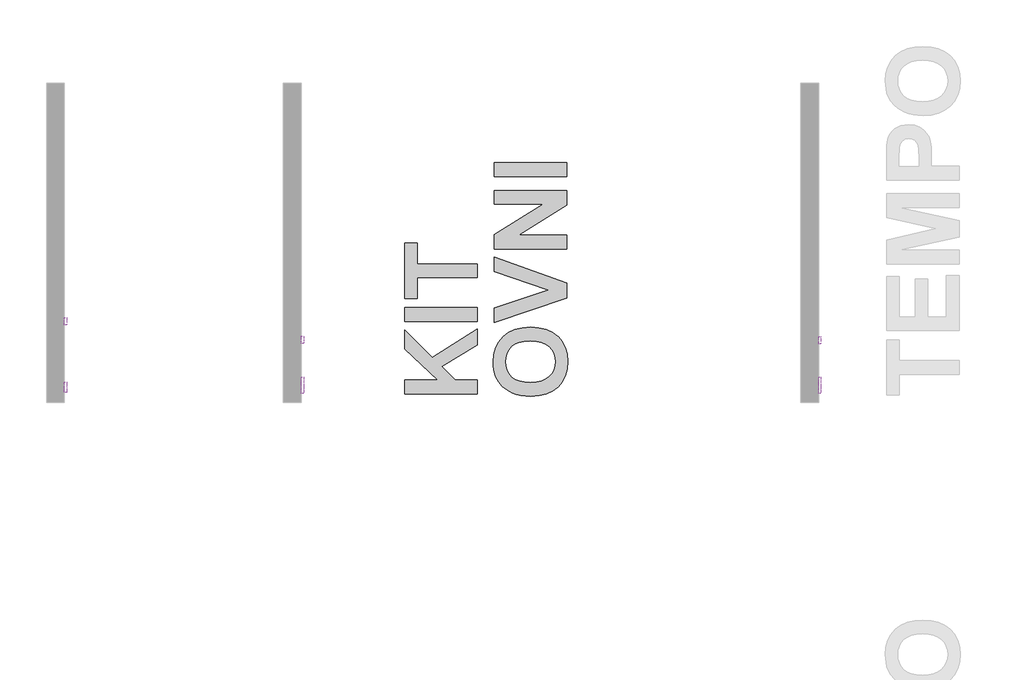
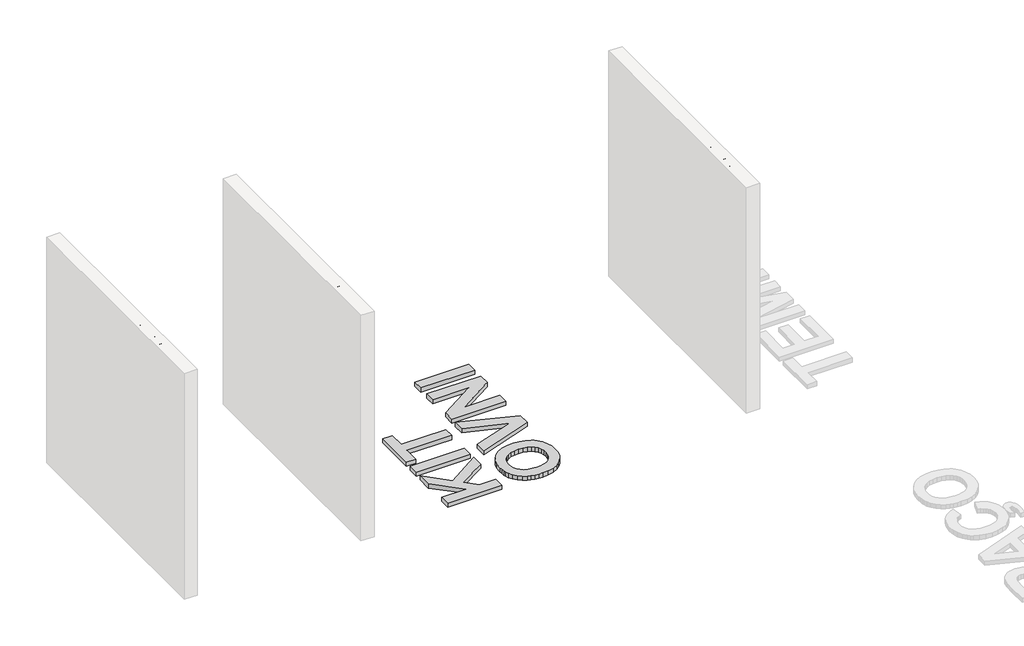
# One storey, part 6 of 9: 7 proxies.
"""IFC4 building model written with IfcOpenShell, lengths in millimetres."""

from ifc_helpers import new_model, si_unit, frame, origin, origin_with_axes, place, context, project, spatial, polyline, outline, extrude, element, save

model = new_model("IFC4")

# Units and contexts
model_context = context("Model", 3, world=origin())
ifc_project = project(units=[si_unit("LENGTHUNIT", "METRE", prefix="MILLI")], contexts=[model_context])

# Site, building, storey
site = spatial("IfcSite", under=ifc_project)
building = spatial("IfcBuilding", under=site)
storey = spatial("IfcBuildingStorey", under=building, Name="PORTOBELLO - SHOWROOM", Elevation=0.0)

# Proxies
placement = place(None, origin())
element("IfcBuildingElementProxy", 1, Name="10mm Arial", ObjectType="10mm Arial", at=placement, inside=storey, context=model_context, shape_type="SweptSolid", body=[
    extrude(outline(polyline([(951.4109297, 2548.4925024), (924.0159838, 2648.9488126), (936.9654301, 2648.9488126), (952.8579323, 2582.9262572), (957.7630255, 2562.5455946), (963.0114753, 2580.5718124), (982.926154, 2648.9488126), (1001.5900339, 2648.9488126), (1016.060059, 2599.3828451), (1026.8267388, 2562.5455946), (1031.5846792, 2582.337646), (1047.6243342, 2648.9488126), (1060.5737804, 2648.9488126), (1033.1543091, 2548.4925024), (1019.738879, 2548.4925024), (995.654871, 2625.9929761), (992.2948821, 2636.8087067), (988.5179603, 2623.7856841), (966.5676679, 2548.4925024), (951.4109297, 2548.4925024)])), frame((127826.5708693, 0.0, 0.0), z_axis=(1.0, 0.0, 0.0), x_axis=(0.0, 1.0, 0.0)), (0.0, 0.0, 1.0), 20.0),
    extrude(outline(polyline([(1071.5611894, 2548.4925024), (1071.5611894, 2648.9488126), (1084.1182281, 2648.9488126), (1084.1182281, 2612.0134603), (1093.9100206, 2620.8794163), (1105.9704186, 2623.834735), (1120.0725618, 2620.6096362), (1128.6319495, 2611.6946292), (1131.2071235, 2595.1889903), (1131.2071235, 2548.4925024), (1118.6500847, 2548.4925024), (1118.6500847, 2593.8891406), (1114.6524337, 2607.1328925), (1103.3216683, 2611.2776963), (1093.0332351, 2608.4817931), (1086.1661046, 2600.903424), (1084.1182281, 2587.6841976), (1084.1182281, 2548.4925024), (1071.5611894, 2548.4925024)])), frame((127826.5708693, 0.0, 0.0), z_axis=(1.0, 0.0, 0.0), x_axis=(0.0, 1.0, 0.0)), (0.0, 0.0, 1.0), 20.0),
    extrude(outline(polyline([(127846.5708693, 1161.0300906), (127846.5708693, 1148.4730518), (127826.5708693, 1148.4730518), (127826.5708693, 1161.0300906), (127846.5708693, 1161.0300906)])), frame((0.0, 0.0, 2636.3917738), z_axis=(0.0, 0.0, 1.0), x_axis=(1.0, 0.0, 0.0)), (0.0, 0.0, 1.0), 12.5570388),
    extrude(outline(polyline([(127846.5708693, 1161.0300906), (127846.5708693, 1148.4730518), (127826.5708693, 1148.4730518), (127826.5708693, 1161.0300906), (127846.5708693, 1161.0300906)])), frame((0.0, 0.0, 2548.4925024), z_axis=(0.0, 0.0, 1.0), x_axis=(1.0, 0.0, 0.0)), (0.0, 0.0, 1.0), 73.7726028),
    extrude(outline(polyline([(1206.5493561, 2558.9648766), (1208.118986, 2548.1246204), (1198.7257324, 2546.9228726), (1188.2043073, 2549.0075372), (1182.9558575, 2554.4767162), (1181.4352786, 2568.7260122), (1181.4352786, 2609.7080664), (1172.0174995, 2609.7080664), (1172.0174995, 2622.2651052), (1181.4352786, 2622.2651052), (1181.4352786, 2640.1932211), (1193.9923174, 2647.5753865), (1193.9923174, 2622.2651052), (1206.5493561, 2622.2651052), (1206.5493561, 2609.7080664), (1193.9923174, 2609.7080664), (1193.9923174, 2569.0938942), (1194.654505, 2562.619171), (1196.8004833, 2560.3260399), (1201.0801771, 2559.4799113), (1206.5493561, 2558.9648766)])), frame((127826.5708693, 0.0, 0.0), z_axis=(1.0, 0.0, 0.0), x_axis=(0.0, 1.0, 0.0)), (0.0, 0.0, 1.0), 20.0),
    extrude(outline(polyline([(1270.757027, 2570.4673203), (1283.0688111, 2568.8976904), (1278.6327674, 2559.6209328), (1271.5541047, 2552.6863572), (1261.9922385, 2548.3637437), (1250.1065844, 2546.9228726), (1235.3729105, 2549.4091417), (1224.0360136, 2556.8679492), (1216.8071324, 2568.814917), (1214.3975054, 2584.7656671), (1216.8316579, 2601.2529119), (1224.1341155, 2613.5830901), (1235.3177282, 2621.2718238), (1249.3953458, 2623.834735), (1263.0345708, 2621.2779552), (1273.9330749, 2613.6076156), (1281.0791827, 2601.3019628), (1283.4612186, 2584.8392435), (1283.3876422, 2581.4547292), (1226.9545441, 2581.4547292), (1229.1281136, 2572.0553442), (1234.177294, 2565.1452941), (1241.4644232, 2560.896257), (1250.351839, 2559.4799113), (1262.6636231, 2562.1041362), (1270.757027, 2570.4673203)]), holes=[polyline([(1226.9545441, 2594.011768), (1270.9041798, 2594.011768), (1265.8764592, 2605.3915843), (1258.5556075, 2609.8061683), (1249.3462949, 2611.2776963), (1233.8829884, 2606.5810695), (1229.017749, 2601.0904307), (1226.9545441, 2594.011768)])]), frame((127826.5708693, 0.0, 0.0), z_axis=(1.0, 0.0, 0.0), x_axis=(0.0, 1.0, 0.0)), (0.0, 0.0, 1.0), 20.0),
])
element("IfcBuildingElementProxy", 2, Name="10mm Arial", ObjectType="10mm Arial", at=placement, inside=storey, context=model_context, shape_type="SweptSolid", body=[
    extrude(outline(polyline([(951.4109297, 2548.4925024), (924.0159838, 2648.9488126), (936.9654301, 2648.9488126), (952.8579323, 2582.9262572), (957.7630255, 2562.5455946), (963.0114753, 2580.5718124), (982.926154, 2648.9488126), (1001.5900339, 2648.9488126), (1016.060059, 2599.3828451), (1026.8267388, 2562.5455946), (1031.5846792, 2582.337646), (1047.6243342, 2648.9488126), (1060.5737804, 2648.9488126), (1033.1543091, 2548.4925024), (1019.738879, 2548.4925024), (995.654871, 2625.9929761), (992.2948821, 2636.8087067), (988.5179603, 2623.7856841), (966.5676679, 2548.4925024), (951.4109297, 2548.4925024)])), frame((123459.5859035, 0.0, 0.0), z_axis=(1.0, 0.0, 0.0), x_axis=(0.0, 1.0, 0.0)), (0.0, 0.0, 1.0), 20.0),
    extrude(outline(polyline([(1071.5611894, 2548.4925024), (1071.5611894, 2648.9488126), (1084.1182281, 2648.9488126), (1084.1182281, 2612.0134603), (1093.9100206, 2620.8794163), (1105.9704186, 2623.834735), (1120.0725618, 2620.6096362), (1128.6319495, 2611.6946292), (1131.2071235, 2595.1889903), (1131.2071235, 2548.4925024), (1118.6500847, 2548.4925024), (1118.6500847, 2593.8891406), (1114.6524337, 2607.1328925), (1103.3216683, 2611.2776963), (1093.0332351, 2608.4817931), (1086.1661046, 2600.903424), (1084.1182281, 2587.6841976), (1084.1182281, 2548.4925024), (1071.5611894, 2548.4925024)])), frame((123459.5859035, 0.0, 0.0), z_axis=(1.0, 0.0, 0.0), x_axis=(0.0, 1.0, 0.0)), (0.0, 0.0, 1.0), 20.0),
    extrude(outline(polyline([(123479.5859035, 1161.0300906), (123479.5859035, 1148.4730518), (123459.5859035, 1148.4730518), (123459.5859035, 1161.0300906), (123479.5859035, 1161.0300906)])), frame((0.0, 0.0, 2636.3917738), z_axis=(0.0, 0.0, 1.0), x_axis=(1.0, 0.0, 0.0)), (0.0, 0.0, 1.0), 12.5570388),
    extrude(outline(polyline([(123479.5859035, 1161.0300906), (123479.5859035, 1148.4730518), (123459.5859035, 1148.4730518), (123459.5859035, 1161.0300906), (123479.5859035, 1161.0300906)])), frame((0.0, 0.0, 2548.4925024), z_axis=(0.0, 0.0, 1.0), x_axis=(1.0, 0.0, 0.0)), (0.0, 0.0, 1.0), 73.7726028),
    extrude(outline(polyline([(1206.5493561, 2558.9648766), (1208.118986, 2548.1246204), (1198.7257324, 2546.9228726), (1188.2043073, 2549.0075372), (1182.9558575, 2554.4767162), (1181.4352786, 2568.7260122), (1181.4352786, 2609.7080664), (1172.0174995, 2609.7080664), (1172.0174995, 2622.2651052), (1181.4352786, 2622.2651052), (1181.4352786, 2640.1932211), (1193.9923174, 2647.5753865), (1193.9923174, 2622.2651052), (1206.5493561, 2622.2651052), (1206.5493561, 2609.7080664), (1193.9923174, 2609.7080664), (1193.9923174, 2569.0938942), (1194.654505, 2562.619171), (1196.8004833, 2560.3260399), (1201.0801771, 2559.4799113), (1206.5493561, 2558.9648766)])), frame((123459.5859035, 0.0, 0.0), z_axis=(1.0, 0.0, 0.0), x_axis=(0.0, 1.0, 0.0)), (0.0, 0.0, 1.0), 20.0),
    extrude(outline(polyline([(1270.757027, 2570.4673203), (1283.0688111, 2568.8976904), (1278.6327674, 2559.6209328), (1271.5541047, 2552.6863572), (1261.9922385, 2548.3637437), (1250.1065844, 2546.9228726), (1235.3729105, 2549.4091417), (1224.0360136, 2556.8679492), (1216.8071324, 2568.814917), (1214.3975054, 2584.7656671), (1216.8316579, 2601.2529119), (1224.1341155, 2613.5830901), (1235.3177282, 2621.2718238), (1249.3953458, 2623.834735), (1263.0345708, 2621.2779552), (1273.9330749, 2613.6076156), (1281.0791827, 2601.3019628), (1283.4612186, 2584.8392435), (1283.3876422, 2581.4547292), (1226.9545441, 2581.4547292), (1229.1281136, 2572.0553442), (1234.177294, 2565.1452941), (1241.4644232, 2560.896257), (1250.351839, 2559.4799113), (1262.6636231, 2562.1041362), (1270.757027, 2570.4673203)]), holes=[polyline([(1226.9545441, 2594.011768), (1270.9041798, 2594.011768), (1265.8764592, 2605.3915843), (1258.5556075, 2609.8061683), (1249.3462949, 2611.2776963), (1233.8829884, 2606.5810695), (1229.017749, 2601.0904307), (1226.9545441, 2594.011768)])]), frame((123459.5859035, 0.0, 0.0), z_axis=(1.0, 0.0, 0.0), x_axis=(0.0, 1.0, 0.0)), (0.0, 0.0, 1.0), 20.0),
])
element("IfcBuildingElementProxy", 3, Name="10mm Arial", ObjectType="10mm Arial", at=placement, inside=storey, context=model_context, shape_type="SweptSolid", body=[
    extrude(outline(polyline([(980.5226583, 2587.7332486), (980.5226583, 2600.2902873), (1021.3330343, 2600.2902873), (1021.3330343, 2562.7417984), (1001.1853637, 2550.8959981), (979.8849962, 2546.9228726), (965.7981814, 2548.5016995), (953.0663987, 2553.2381802), (942.4897914, 2560.9667677), (934.8685027, 2571.5219153), (930.2607807, 2584.1831873), (928.7248734, 2598.2301482), (930.2546493, 2612.3782766), (934.8439772, 2625.5392549), (942.3027847, 2636.5787805), (952.4409993, 2644.3625504), (964.7895716, 2648.9794694), (978.879452, 2650.5184424), (998.5243506, 2646.9499871), (1012.2953999, 2637.0171732), (1019.8860318, 2620.4011697), (1008.3100117, 2617.1392827), (1002.5833153, 2628.752091), (992.7976542, 2635.4475433), (978.6832483, 2637.9614036), (962.6068051, 2635.2513396), (951.6684471, 2628.1389544), (945.2059868, 2618.4636579), (941.2819121, 2598.745183), (946.0030644, 2576.8562043), (959.7373256, 2563.7596052), (978.879452, 2559.4799113), (996.0595412, 2562.7050102), (1008.7759955, 2569.5844035), (1008.7759955, 2587.7332486), (980.5226583, 2587.7332486)])), frame((121459.5859035, 0.0, 0.0), z_axis=(1.0, 0.0, 0.0), x_axis=(0.0, 1.0, 0.0)), (0.0, 0.0, 1.0), 20.0),
    extrude(outline(polyline([(1040.1685924, 2548.4925024), (1040.1685924, 2622.2651052), (1051.1560014, 2622.2651052), (1051.1560014, 2611.3512727), (1058.9550997, 2621.4067139), (1066.8032489, 2623.834735), (1079.4093386, 2619.9597114), (1075.2154839, 2608.7025223), (1066.386316, 2611.2776963), (1059.2861935, 2608.8006242), (1054.7612449, 2601.9334936), (1052.7256312, 2587.2672647), (1052.7256312, 2548.4925024), (1040.1685924, 2548.4925024)])), frame((121459.5859035, 0.0, 0.0), z_axis=(1.0, 0.0, 0.0), x_axis=(0.0, 1.0, 0.0)), (0.0, 0.0, 1.0), 20.0),
    extrude(outline(polyline([(1134.3463832, 2557.9102815), (1122.1694892, 2549.3999447), (1108.7172709, 2546.9228726), (1098.223437, 2548.4127947), (1090.4825867, 2552.8825609), (1085.7093178, 2559.6699837), (1084.1182281, 2568.1128755), (1086.5217238, 2578.0456894), (1092.8370314, 2585.2561765), (1101.6294111, 2589.3764548), (1112.4941927, 2591.2649157), (1134.2728068, 2595.5813978), (1134.3463832, 2598.377301), (1130.8882925, 2607.6479272), (1117.0068785, 2611.2776963), (1104.3026869, 2608.8619378), (1098.2448967, 2600.2902873), (1085.687858, 2601.8599172), (1091.1202488, 2614.1226504), (1102.0586068, 2621.308612), (1118.6255593, 2623.834735), (1133.8436111, 2621.6029176), (1142.4397871, 2615.9988485), (1146.2902853, 2607.476249), (1146.903422, 2596.4888401), (1146.903422, 2580.866118), (1147.5410841, 2559.0507157), (1150.0426817, 2548.4925024), (1137.4856429, 2548.4925024), (1134.3463832, 2557.9102815)]), holes=[polyline([(1134.3463832, 2583.024359), (1114.088348, 2579.1738608), (1103.2848801, 2577.1382471), (1098.3920495, 2573.8273092), (1096.6752669, 2568.9957923), (1100.4154005, 2562.2022381), (1111.3905467, 2559.4799113), (1124.0947383, 2562.484281), (1132.286244, 2569.7560817), (1134.2728068, 2579.4681664), (1134.3463832, 2583.024359)])]), frame((121459.5859035, 0.0, 0.0), z_axis=(1.0, 0.0, 0.0), x_axis=(0.0, 1.0, 0.0)), (0.0, 0.0, 1.0), 20.0),
    extrude(outline(polyline([(1164.1693503, 2520.2391652), (1164.1693503, 2622.2651052), (1176.7263891, 2622.2651052), (1176.7263891, 2609.9533211), (1185.4084041, 2620.3643815), (1197.1315771, 2623.834735), (1213.0486047, 2618.9786927), (1223.4474024, 2605.2934825), (1226.9545441, 2585.9428895), (1222.9936813, 2565.5990152), (1211.4912376, 2551.7421267), (1195.6109981, 2546.9228726), (1184.6849029, 2550.1479714), (1176.7263891, 2558.302689), (1176.7263891, 2520.2391652), (1164.1693503, 2520.2391652)]), holes=[polyline([(1176.7263891, 2584.7901926), (1178.0844868, 2573.5330036), (1182.1587798, 2565.6603289), (1188.1705848, 2561.0250157), (1195.341218, 2559.4799113), (1202.6283472, 2561.080198), (1208.7934363, 2565.8810581), (1212.9964881, 2574.041907), (1214.3975054, 2585.7221603), (1213.0302106, 2596.9180357), (1208.9283264, 2604.901075), (1202.9257185, 2609.683541), (1195.8562528, 2611.2776963), (1188.759196, 2609.5823734), (1182.5266618, 2604.4964048), (1178.1764573, 2596.179206), (1176.7263891, 2584.7901926)])]), frame((121459.5859035, 0.0, 0.0), z_axis=(1.0, 0.0, 0.0), x_axis=(0.0, 1.0, 0.0)), (0.0, 0.0, 1.0), 20.0),
    extrude(outline(polyline([(1241.0812127, 2548.4925024), (1241.0812127, 2648.9488126), (1253.6382515, 2648.9488126), (1253.6382515, 2612.0134603), (1263.4300439, 2620.8794163), (1275.490442, 2623.834735), (1289.5925852, 2620.6096362), (1298.1519729, 2611.6946292), (1300.7271469, 2595.1889903), (1300.7271469, 2548.4925024), (1288.1701081, 2548.4925024), (1288.1701081, 2593.8891406), (1284.1724571, 2607.1328925), (1272.8416917, 2611.2776963), (1262.5532585, 2608.4817931), (1255.686128, 2600.903424), (1253.6382515, 2587.6841976), (1253.6382515, 2548.4925024), (1241.0812127, 2548.4925024)])), frame((121459.5859035, 0.0, 0.0), z_axis=(1.0, 0.0, 0.0), x_axis=(0.0, 1.0, 0.0)), (0.0, 0.0, 1.0), 20.0),
    extrude(outline(polyline([(121479.5859035, 1330.550114), (121479.5859035, 1317.9930752), (121459.5859035, 1317.9930752), (121459.5859035, 1330.550114), (121479.5859035, 1330.550114)])), frame((0.0, 0.0, 2636.3917738), z_axis=(0.0, 0.0, 1.0), x_axis=(1.0, 0.0, 0.0)), (0.0, 0.0, 1.0), 12.5570388),
    extrude(outline(polyline([(121479.5859035, 1330.550114), (121479.5859035, 1317.9930752), (121459.5859035, 1317.9930752), (121459.5859035, 1330.550114), (121479.5859035, 1330.550114)])), frame((0.0, 0.0, 2548.4925024), z_axis=(0.0, 0.0, 1.0), x_axis=(1.0, 0.0, 0.0)), (0.0, 0.0, 1.0), 73.7726028),
    extrude(outline(polyline([(1376.0693795, 2558.9648766), (1377.6390094, 2548.1246204), (1368.2457557, 2546.9228726), (1357.7243307, 2549.0075372), (1352.4758809, 2554.4767162), (1350.955302, 2568.7260122), (1350.955302, 2609.7080664), (1341.5375229, 2609.7080664), (1341.5375229, 2622.2651052), (1350.955302, 2622.2651052), (1350.955302, 2640.1932211), (1363.5123407, 2647.5753865), (1363.5123407, 2622.2651052), (1376.0693795, 2622.2651052), (1376.0693795, 2609.7080664), (1363.5123407, 2609.7080664), (1363.5123407, 2569.0938942), (1364.1745283, 2562.619171), (1366.3205066, 2560.3260399), (1370.6002005, 2559.4799113), (1376.0693795, 2558.9648766)])), frame((121459.5859035, 0.0, 0.0), z_axis=(1.0, 0.0, 0.0), x_axis=(0.0, 1.0, 0.0)), (0.0, 0.0, 1.0), 20.0),
    extrude(outline(polyline([(1440.2770504, 2570.4673203), (1452.5888345, 2568.8976904), (1448.1527908, 2559.6209328), (1441.0741281, 2552.6863572), (1431.5122619, 2548.3637437), (1419.6266077, 2546.9228726), (1404.8929338, 2549.4091417), (1393.556037, 2556.8679492), (1386.3271558, 2568.814917), (1383.9175287, 2584.7656671), (1386.3516813, 2601.2529119), (1393.6541389, 2613.5830901), (1404.8377515, 2621.2718238), (1418.9153692, 2623.834735), (1432.5545942, 2621.2779552), (1443.4530983, 2613.6076156), (1450.599206, 2601.3019628), (1452.981242, 2584.8392435), (1452.9076656, 2581.4547292), (1396.4745675, 2581.4547292), (1398.648137, 2572.0553442), (1403.6973173, 2565.1452941), (1410.9844465, 2560.896257), (1419.8718624, 2559.4799113), (1432.1836465, 2562.1041362), (1440.2770504, 2570.4673203)]), holes=[polyline([(1396.4745675, 2594.011768), (1440.4242032, 2594.011768), (1435.3964826, 2605.3915843), (1428.0756309, 2609.8061683), (1418.8663183, 2611.2776963), (1403.4030117, 2606.5810695), (1398.5377724, 2601.0904307), (1396.4745675, 2594.011768)])]), frame((121459.5859035, 0.0, 0.0), z_axis=(1.0, 0.0, 0.0), x_axis=(0.0, 1.0, 0.0)), (0.0, 0.0, 1.0), 20.0),
])
element("IfcBuildingElementProxy", 4, Name="10mm Arial Narrow", ObjectType="10mm Arial Narrow", at=placement, inside=storey, context=model_context, shape_type="SweptSolid", body=[
    extrude(outline(polyline([(1340.568822, 2548.4925024), (1340.568822, 2649.2111062), (1371.8657067, 2649.2111062), (1388.1614082, 2647.3327854), (1399.6343943, 2637.8523423), (1403.9240728, 2620.8332334), (1402.1377644, 2608.7574079), (1396.7788392, 2599.1310141), (1387.0350504, 2592.8297557), (1372.0941511, 2590.7293363), (1350.3157837, 2590.7293363), (1350.3157837, 2548.4925024), (1340.568822, 2548.4925024)]), holes=[polyline([(1350.3157837, 2602.1007915), (1373.2871386, 2602.1007915), (1389.151334, 2606.6316057), (1394.1771111, 2620.3001965), (1391.7022966, 2630.4659729), (1385.7246678, 2636.2659227), (1373.0586942, 2637.8396509), (1350.3157837, 2637.8396509), (1350.3157837, 2602.1007915)])]), frame((127826.5708693, 0.0, 0.0), z_axis=(1.0, 0.0, 0.0), x_axis=(0.0, 1.0, 0.0)), (0.0, 0.0, 1.0), 20.0),
    extrude(outline(polyline([(1412.0465408, 2585.0436086), (1414.0010097, 2601.6343842), (1419.8644163, 2613.586469), (1428.722983, 2620.8110236), (1439.6629322, 2623.2192084), (1450.4759678, 2620.8110236), (1459.3599172, 2613.586469), (1465.2994719, 2601.8247545), (1467.2793235, 2585.80509), (1465.3343732, 2568.6432034), (1459.4995221, 2556.5007483), (1450.6504739, 2549.2761937), (1439.6629322, 2546.8680088), (1428.802304, 2549.2825394), (1419.9278731, 2556.526131), (1414.0168739, 2568.4845615), (1412.0465408, 2585.0436086)]), holes=[polyline([(1421.7935025, 2585.0689913), (1423.0975393, 2572.5172399), (1427.0096499, 2563.6459819), (1432.8508467, 2558.3727233), (1439.942142, 2556.6149705), (1446.6622152, 2558.3885875), (1452.3542885, 2563.7094386), (1456.2378435, 2572.5965609), (1457.5323619, 2585.0689913), (1456.228325, 2597.5826687), (1452.3162144, 2606.4412354), (1446.4750177, 2611.7144939), (1439.3837223, 2613.4722468), (1432.6160566, 2611.7049754), (1426.9335018, 2606.4031613), (1423.0785023, 2597.5350761), (1421.7935025, 2585.0689913)])]), frame((127826.5708693, 0.0, 0.0), z_axis=(1.0, 0.0, 0.0), x_axis=(0.0, 1.0, 0.0)), (0.0, 0.0, 1.0), 20.0),
    extrude(outline(polyline([(1538.7570423, 2556.6149705), (1540.3815359, 2546.8680088), (1533.0205493, 2546.8680088), (1524.7457849, 2548.9874653), (1520.4307238, 2554.7874152), (1519.263119, 2569.4332403), (1519.263119, 2611.8477532), (1511.140651, 2611.8477532), (1511.140651, 2615.0967404), (1509.5161574, 2610.2232596), (1501.952109, 2611.8477532), (1495.8729493, 2609.525235), (1492.0020856, 2603.0399519), (1490.0222341, 2587.6326453), (1490.0222341, 2548.4925024), (1480.2752724, 2548.4925024), (1480.2752724, 2621.5947148), (1490.0222341, 2621.5947148), (1490.0222341, 2611.8985186), (1496.2663814, 2620.9855297), (1502.6628249, 2623.2192084), (1511.140651, 2621.5947148), (1519.263119, 2621.5947148), (1519.263119, 2637.8396509), (1529.0100807, 2645.962119), (1529.0100807, 2621.5947148), (1538.7570423, 2621.5947148), (1538.7570423, 2611.8477532), (1529.0100807, 2611.8477532), (1529.0100807, 2567.1995616), (1529.8730929, 2559.2040072), (1534.4927466, 2556.6149705), (1538.7570423, 2556.6149705)])), frame((127826.5708693, 0.0, 0.0), z_axis=(1.0, 0.0, 0.0), x_axis=(0.0, 1.0, 0.0)), (0.0, 0.0, 1.0), 20.0),
    extrude(outline(polyline([(1545.2550168, 2585.0436086), (1547.2094856, 2601.6343842), (1553.0728922, 2613.586469), (1561.931459, 2620.8110236), (1572.8714081, 2623.2192084), (1583.6844437, 2620.8110236), (1592.5683931, 2613.586469), (1598.5079479, 2601.8247545), (1600.4877995, 2585.80509), (1598.5428491, 2568.6432034), (1592.707998, 2556.5007483), (1583.8589498, 2549.2761937), (1572.8714081, 2546.8680088), (1562.0107799, 2549.2825394), (1553.136349, 2556.526131), (1547.2253498, 2568.4845615), (1545.2550168, 2585.0436086)]), holes=[polyline([(1555.0019784, 2585.0689913), (1556.3060153, 2572.5172399), (1560.2181259, 2563.6459819), (1566.0593226, 2558.3727233), (1573.1506179, 2556.6149705), (1579.8706911, 2558.3885875), (1585.5627644, 2563.7094386), (1589.4463195, 2572.5965609), (1590.7408378, 2585.0689913), (1589.4368009, 2597.5826687), (1585.5246904, 2606.4412354), (1579.6834936, 2611.7144939), (1572.5921983, 2613.4722468), (1565.8245325, 2611.7049754), (1560.1419777, 2606.4031613), (1556.2869782, 2597.5350761), (1555.0019784, 2585.0689913)])]), frame((127826.5708693, 0.0, 0.0), z_axis=(1.0, 0.0, 0.0), x_axis=(0.0, 1.0, 0.0)), (0.0, 0.0, 1.0), 20.0),
    extrude(outline(polyline([(1623.23071, 2548.4925024), (1613.4837483, 2548.4925024), (1613.4837483, 2649.2111062), (1623.23071, 2649.2111062), (1623.23071, 2613.802222), (1630.6297707, 2620.8839989), (1639.831004, 2623.2192084), (1652.7127307, 2619.0183695), (1661.9901122, 2606.2889391), (1665.4675438, 2585.6020283), (1663.5352848, 2569.1476848), (1657.7385078, 2556.9449457), (1649.3653855, 2549.387243), (1639.7040905, 2546.8680088), (1630.3632522, 2549.4824282), (1623.23071, 2557.2495383), (1623.23071, 2548.4925024)]), holes=[polyline([(1623.23071, 2585.6020283), (1625.3120924, 2568.3544751), (1631.2008818, 2559.6228219), (1639.6533251, 2556.6149705), (1645.5960527, 2558.4044517), (1650.83441, 2563.7728954), (1655.7205822, 2585.1959049), (1651.012089, 2606.6316057), (1645.767386, 2611.7620865), (1639.4502634, 2613.4722468), (1633.4726345, 2611.6827655), (1628.1803389, 2606.3143218), (1623.23071, 2585.6020283)])]), frame((127826.5708693, 0.0, 0.0), z_axis=(1.0, 0.0, 0.0), x_axis=(0.0, 1.0, 0.0)), (0.0, 0.0, 1.0), 20.0),
    extrude(outline(polyline([(1717.4513393, 2571.2354129), (1727.198301, 2569.6109193), (1723.4987706, 2559.7243528), (1717.6797837, 2552.6045019), (1709.9761304, 2548.3021321), (1700.6226008, 2546.8680088), (1689.0290468, 2549.2825394), (1679.8849246, 2556.526131), (1673.9453698, 2568.3322652), (1671.9655182, 2584.4344235), (1673.9548884, 2601.1013472), (1679.9229987, 2613.2818764), (1688.9370345, 2620.7348754), (1700.0641811, 2623.2192084), (1710.7471303, 2620.8205421), (1719.4946477, 2613.6245431), (1725.3294987, 2601.8850385), (1727.2744491, 2585.8558554), (1727.198301, 2582.6068682), (1681.7124799, 2582.6068682), (1687.7154914, 2563.1637103), (1693.6455277, 2558.2521554), (1700.7495144, 2556.6149705), (1710.9279822, 2560.2700811), (1717.4513393, 2571.2354129)]), holes=[polyline([(1682.3724304, 2592.3538299), (1717.4513393, 2592.3538299), (1713.1870436, 2606.6189144), (1707.361711, 2611.7589137), (1700.1403293, 2613.4722468), (1687.9312445, 2607.7611364), (1682.3724304, 2592.3538299)])]), frame((127826.5708693, 0.0, 0.0), z_axis=(1.0, 0.0, 0.0), x_axis=(0.0, 1.0, 0.0)), (0.0, 0.0, 1.0), 20.0),
    extrude(outline(polyline([(127846.5708693, 1749.9412115), (127846.5708693, 1740.1942498), (127826.5708693, 1740.1942498), (127826.5708693, 1749.9412115), (127846.5708693, 1749.9412115)])), frame((0.0, 0.0, 2548.4925024), z_axis=(0.0, 0.0, 1.0), x_axis=(1.0, 0.0, 0.0)), (0.0, 0.0, 1.0), 100.7186038),
    extrude(outline(polyline([(127846.5708693, 1775.9331092), (127846.5708693, 1766.1861476), (127826.5708693, 1766.1861476), (127826.5708693, 1775.9331092), (127846.5708693, 1775.9331092)])), frame((0.0, 0.0, 2548.4925024), z_axis=(0.0, 0.0, 1.0), x_axis=(1.0, 0.0, 0.0)), (0.0, 0.0, 1.0), 100.7186038),
    extrude(outline(polyline([(1787.3045645, 2585.0436086), (1789.2590334, 2601.6343842), (1795.12244, 2613.586469), (1803.9810067, 2620.8110236), (1814.9209558, 2623.2192084), (1825.7339914, 2620.8110236), (1834.6179408, 2613.586469), (1840.5574956, 2601.8247545), (1842.5373472, 2585.80509), (1840.5923968, 2568.6432034), (1834.7575458, 2556.5007483), (1825.9084976, 2549.2761937), (1814.9209558, 2546.8680088), (1804.0603277, 2549.2825394), (1795.1858968, 2556.526131), (1789.2748976, 2568.4845615), (1787.3045645, 2585.0436086)]), holes=[polyline([(1797.0515261, 2585.0689913), (1798.355563, 2572.5172399), (1802.2676736, 2563.6459819), (1808.1088703, 2558.3727233), (1815.2001657, 2556.6149705), (1821.9202388, 2558.3885875), (1827.6123122, 2563.7094386), (1831.4958672, 2572.5965609), (1832.7903855, 2585.0689913), (1831.4863487, 2597.5826687), (1827.5742381, 2606.4412354), (1821.7330413, 2611.7144939), (1814.641746, 2613.4722468), (1807.8740802, 2611.7049754), (1802.1915254, 2606.4031613), (1798.336526, 2597.5350761), (1797.0515261, 2585.0689913)])]), frame((127826.5708693, 0.0, 0.0), z_axis=(1.0, 0.0, 0.0), x_axis=(0.0, 1.0, 0.0)), (0.0, 0.0, 1.0), 20.0),
])
element("IfcBuildingElementProxy", 5, Name="10mm Arial Narrow", ObjectType="10mm Arial Narrow", at=placement, inside=storey, context=model_context, shape_type="SweptSolid", body=[
    extrude(outline(polyline([(1345.568822, 2548.4925024), (1345.568822, 2649.2111062), (1376.8657067, 2649.2111062), (1393.1614082, 2647.3327854), (1404.6343943, 2637.8523423), (1408.9240728, 2620.8332334), (1407.1377644, 2608.7574079), (1401.7788392, 2599.1310141), (1392.0350504, 2592.8297557), (1377.0941511, 2590.7293363), (1355.3157837, 2590.7293363), (1355.3157837, 2548.4925024), (1345.568822, 2548.4925024)]), holes=[polyline([(1355.3157837, 2602.1007915), (1378.2871386, 2602.1007915), (1394.151334, 2606.6316057), (1399.1771111, 2620.3001965), (1396.7022966, 2630.4659729), (1390.7246678, 2636.2659227), (1378.0586942, 2637.8396509), (1355.3157837, 2637.8396509), (1355.3157837, 2602.1007915)])]), frame((123459.5859035, 0.0, 0.0), z_axis=(1.0, 0.0, 0.0), x_axis=(0.0, 1.0, 0.0)), (0.0, 0.0, 1.0), 20.0),
    extrude(outline(polyline([(1417.0465408, 2585.0436086), (1419.0010097, 2601.6343842), (1424.8644163, 2613.586469), (1433.722983, 2620.8110236), (1444.6629322, 2623.2192084), (1455.4759678, 2620.8110236), (1464.3599172, 2613.586469), (1470.2994719, 2601.8247545), (1472.2793235, 2585.80509), (1470.3343732, 2568.6432034), (1464.4995221, 2556.5007483), (1455.6504739, 2549.2761937), (1444.6629322, 2546.8680088), (1433.802304, 2549.2825394), (1424.9278731, 2556.526131), (1419.0168739, 2568.4845615), (1417.0465408, 2585.0436086)]), holes=[polyline([(1426.7935025, 2585.0689913), (1428.0975393, 2572.5172399), (1432.0096499, 2563.6459819), (1437.8508467, 2558.3727233), (1444.942142, 2556.6149705), (1451.6622152, 2558.3885875), (1457.3542885, 2563.7094386), (1461.2378435, 2572.5965609), (1462.5323619, 2585.0689913), (1461.228325, 2597.5826687), (1457.3162144, 2606.4412354), (1451.4750177, 2611.7144939), (1444.3837223, 2613.4722468), (1437.6160566, 2611.7049754), (1431.9335018, 2606.4031613), (1428.0785023, 2597.5350761), (1426.7935025, 2585.0689913)])]), frame((123459.5859035, 0.0, 0.0), z_axis=(1.0, 0.0, 0.0), x_axis=(0.0, 1.0, 0.0)), (0.0, 0.0, 1.0), 20.0),
    extrude(outline(polyline([(1543.7570423, 2556.6149705), (1545.3815359, 2546.8680088), (1538.0205493, 2546.8680088), (1529.7457849, 2548.9874653), (1525.4307238, 2554.7874152), (1524.263119, 2569.4332403), (1524.263119, 2611.8477532), (1516.140651, 2611.8477532), (1516.140651, 2615.0967404), (1514.5161574, 2610.2232596), (1506.952109, 2611.8477532), (1500.8729493, 2609.525235), (1497.0020856, 2603.0399519), (1495.0222341, 2587.6326453), (1495.0222341, 2548.4925024), (1485.2752724, 2548.4925024), (1485.2752724, 2621.5947148), (1495.0222341, 2621.5947148), (1495.0222341, 2611.8985186), (1501.2663814, 2620.9855297), (1507.6628249, 2623.2192084), (1516.140651, 2621.5947148), (1524.263119, 2621.5947148), (1524.263119, 2637.8396509), (1534.0100807, 2645.962119), (1534.0100807, 2621.5947148), (1543.7570423, 2621.5947148), (1543.7570423, 2611.8477532), (1534.0100807, 2611.8477532), (1534.0100807, 2567.1995616), (1534.8730929, 2559.2040072), (1539.4927466, 2556.6149705), (1543.7570423, 2556.6149705)])), frame((123459.5859035, 0.0, 0.0), z_axis=(1.0, 0.0, 0.0), x_axis=(0.0, 1.0, 0.0)), (0.0, 0.0, 1.0), 20.0),
    extrude(outline(polyline([(1550.2550168, 2585.0436086), (1552.2094856, 2601.6343842), (1558.0728922, 2613.586469), (1566.931459, 2620.8110236), (1577.8714081, 2623.2192084), (1588.6844437, 2620.8110236), (1597.5683931, 2613.586469), (1603.5079479, 2601.8247545), (1605.4877995, 2585.80509), (1603.5428491, 2568.6432034), (1597.707998, 2556.5007483), (1588.8589498, 2549.2761937), (1577.8714081, 2546.8680088), (1567.0107799, 2549.2825394), (1558.136349, 2556.526131), (1552.2253498, 2568.4845615), (1550.2550168, 2585.0436086)]), holes=[polyline([(1560.0019784, 2585.0689913), (1561.3060153, 2572.5172399), (1565.2181259, 2563.6459819), (1571.0593226, 2558.3727233), (1578.1506179, 2556.6149705), (1584.8706911, 2558.3885875), (1590.5627644, 2563.7094386), (1594.4463195, 2572.5965609), (1595.7408378, 2585.0689913), (1594.4368009, 2597.5826687), (1590.5246904, 2606.4412354), (1584.6834936, 2611.7144939), (1577.5921983, 2613.4722468), (1570.8245325, 2611.7049754), (1565.1419777, 2606.4031613), (1561.2869782, 2597.5350761), (1560.0019784, 2585.0689913)])]), frame((123459.5859035, 0.0, 0.0), z_axis=(1.0, 0.0, 0.0), x_axis=(0.0, 1.0, 0.0)), (0.0, 0.0, 1.0), 20.0),
    extrude(outline(polyline([(1628.23071, 2548.4925024), (1618.4837483, 2548.4925024), (1618.4837483, 2649.2111062), (1628.23071, 2649.2111062), (1628.23071, 2613.802222), (1635.6297707, 2620.8839989), (1644.831004, 2623.2192084), (1657.7127307, 2619.0183695), (1666.9901122, 2606.2889391), (1670.4675438, 2585.6020283), (1668.5352848, 2569.1476848), (1662.7385078, 2556.9449457), (1654.3653855, 2549.387243), (1644.7040905, 2546.8680088), (1635.3632522, 2549.4824282), (1628.23071, 2557.2495383), (1628.23071, 2548.4925024)]), holes=[polyline([(1628.23071, 2585.6020283), (1630.3120924, 2568.3544751), (1636.2008818, 2559.6228219), (1644.6533251, 2556.6149705), (1650.5960527, 2558.4044517), (1655.83441, 2563.7728954), (1660.7205822, 2585.1959049), (1656.012089, 2606.6316057), (1650.767386, 2611.7620865), (1644.4502634, 2613.4722468), (1638.4726345, 2611.6827655), (1633.1803389, 2606.3143218), (1628.23071, 2585.6020283)])]), frame((123459.5859035, 0.0, 0.0), z_axis=(1.0, 0.0, 0.0), x_axis=(0.0, 1.0, 0.0)), (0.0, 0.0, 1.0), 20.0),
    extrude(outline(polyline([(1722.4513393, 2571.2354129), (1732.198301, 2569.6109193), (1728.4987706, 2559.7243528), (1722.6797837, 2552.6045019), (1714.9761304, 2548.3021321), (1705.6226008, 2546.8680088), (1694.0290468, 2549.2825394), (1684.8849246, 2556.526131), (1678.9453698, 2568.3322652), (1676.9655182, 2584.4344235), (1678.9548884, 2601.1013472), (1684.9229987, 2613.2818764), (1693.9370345, 2620.7348754), (1705.0641811, 2623.2192084), (1715.7471303, 2620.8205421), (1724.4946477, 2613.6245431), (1730.3294987, 2601.8850385), (1732.2744491, 2585.8558554), (1732.198301, 2582.6068682), (1686.7124799, 2582.6068682), (1692.7154914, 2563.1637103), (1698.6455277, 2558.2521554), (1705.7495144, 2556.6149705), (1715.9279822, 2560.2700811), (1722.4513393, 2571.2354129)]), holes=[polyline([(1687.3724304, 2592.3538299), (1722.4513393, 2592.3538299), (1718.1870436, 2606.6189144), (1712.361711, 2611.7589137), (1705.1403293, 2613.4722468), (1692.9312445, 2607.7611364), (1687.3724304, 2592.3538299)])]), frame((123459.5859035, 0.0, 0.0), z_axis=(1.0, 0.0, 0.0), x_axis=(0.0, 1.0, 0.0)), (0.0, 0.0, 1.0), 20.0),
    extrude(outline(polyline([(123479.5859035, 1754.9412115), (123479.5859035, 1745.1942498), (123459.5859035, 1745.1942498), (123459.5859035, 1754.9412115), (123479.5859035, 1754.9412115)])), frame((0.0, 0.0, 2548.4925024), z_axis=(0.0, 0.0, 1.0), x_axis=(1.0, 0.0, 0.0)), (0.0, 0.0, 1.0), 100.7186038),
    extrude(outline(polyline([(123479.5859035, 1780.9331092), (123479.5859035, 1771.1861476), (123459.5859035, 1771.1861476), (123459.5859035, 1780.9331092), (123479.5859035, 1780.9331092)])), frame((0.0, 0.0, 2548.4925024), z_axis=(0.0, 0.0, 1.0), x_axis=(1.0, 0.0, 0.0)), (0.0, 0.0, 1.0), 100.7186038),
    extrude(outline(polyline([(1792.3045645, 2585.0436086), (1794.2590334, 2601.6343842), (1800.12244, 2613.586469), (1808.9810067, 2620.8110236), (1819.9209558, 2623.2192084), (1830.7339914, 2620.8110236), (1839.6179408, 2613.586469), (1845.5574956, 2601.8247545), (1847.5373472, 2585.80509), (1845.5923968, 2568.6432034), (1839.7575458, 2556.5007483), (1830.9084976, 2549.2761937), (1819.9209558, 2546.8680088), (1809.0603277, 2549.2825394), (1800.1858968, 2556.526131), (1794.2748976, 2568.4845615), (1792.3045645, 2585.0436086)]), holes=[polyline([(1802.0515261, 2585.0689913), (1803.355563, 2572.5172399), (1807.2676736, 2563.6459819), (1813.1088703, 2558.3727233), (1820.2001657, 2556.6149705), (1826.9202388, 2558.3885875), (1832.6123122, 2563.7094386), (1836.4958672, 2572.5965609), (1837.7903855, 2585.0689913), (1836.4863487, 2597.5826687), (1832.5742381, 2606.4412354), (1826.7330413, 2611.7144939), (1819.641746, 2613.4722468), (1812.8740802, 2611.7049754), (1807.1915254, 2606.4031613), (1803.336526, 2597.5350761), (1802.0515261, 2585.0689913)])]), frame((123459.5859035, 0.0, 0.0), z_axis=(1.0, 0.0, 0.0), x_axis=(0.0, 1.0, 0.0)), (0.0, 0.0, 1.0), 20.0),
])
element("IfcBuildingElementProxy", 6, Name="10mm Arial Narrow", ObjectType="10mm Arial Narrow", at=placement, inside=storey, context=model_context, shape_type="SweptSolid", body=[
    extrude(outline(polyline([(1500.568822, 2548.4925024), (1500.568822, 2649.2111062), (1531.8657067, 2649.2111062), (1548.1614082, 2647.3327854), (1559.6343943, 2637.8523423), (1563.9240728, 2620.8332334), (1562.1377644, 2608.7574079), (1556.7788392, 2599.1310141), (1547.0350504, 2592.8297557), (1532.0941511, 2590.7293363), (1510.3157837, 2590.7293363), (1510.3157837, 2548.4925024), (1500.568822, 2548.4925024)]), holes=[polyline([(1510.3157837, 2602.1007915), (1533.2871386, 2602.1007915), (1549.151334, 2606.6316057), (1554.1771111, 2620.3001965), (1551.7022966, 2630.4659729), (1545.7246678, 2636.2659227), (1533.0586942, 2637.8396509), (1510.3157837, 2637.8396509), (1510.3157837, 2602.1007915)])]), frame((121459.5859035, 0.0, 0.0), z_axis=(1.0, 0.0, 0.0), x_axis=(0.0, 1.0, 0.0)), (0.0, 0.0, 1.0), 20.0),
    extrude(outline(polyline([(1572.0465408, 2585.0436086), (1574.0010097, 2601.6343842), (1579.8644163, 2613.586469), (1588.722983, 2620.8110236), (1599.6629322, 2623.2192084), (1610.4759678, 2620.8110236), (1619.3599172, 2613.586469), (1625.2994719, 2601.8247545), (1627.2793235, 2585.80509), (1625.3343732, 2568.6432034), (1619.4995221, 2556.5007483), (1610.6504739, 2549.2761937), (1599.6629322, 2546.8680088), (1588.802304, 2549.2825394), (1579.9278731, 2556.526131), (1574.0168739, 2568.4845615), (1572.0465408, 2585.0436086)]), holes=[polyline([(1581.7935025, 2585.0689913), (1583.0975393, 2572.5172399), (1587.0096499, 2563.6459819), (1592.8508467, 2558.3727233), (1599.942142, 2556.6149705), (1606.6622152, 2558.3885875), (1612.3542885, 2563.7094386), (1616.2378435, 2572.5965609), (1617.5323619, 2585.0689913), (1616.228325, 2597.5826687), (1612.3162144, 2606.4412354), (1606.4750177, 2611.7144939), (1599.3837223, 2613.4722468), (1592.6160566, 2611.7049754), (1586.9335018, 2606.4031613), (1583.0785023, 2597.5350761), (1581.7935025, 2585.0689913)])]), frame((121459.5859035, 0.0, 0.0), z_axis=(1.0, 0.0, 0.0), x_axis=(0.0, 1.0, 0.0)), (0.0, 0.0, 1.0), 20.0),
    extrude(outline(polyline([(1698.7570423, 2556.6149705), (1700.3815359, 2546.8680088), (1693.0205493, 2546.8680088), (1684.7457849, 2548.9874653), (1680.4307238, 2554.7874152), (1679.263119, 2569.4332403), (1679.263119, 2611.8477532), (1671.140651, 2611.8477532), (1671.140651, 2615.0967404), (1669.5161574, 2610.2232596), (1661.952109, 2611.8477532), (1655.8729493, 2609.525235), (1652.0020856, 2603.0399519), (1650.0222341, 2587.6326453), (1650.0222341, 2548.4925024), (1640.2752724, 2548.4925024), (1640.2752724, 2621.5947148), (1650.0222341, 2621.5947148), (1650.0222341, 2611.8985186), (1656.2663814, 2620.9855297), (1662.6628249, 2623.2192084), (1671.140651, 2621.5947148), (1679.263119, 2621.5947148), (1679.263119, 2637.8396509), (1689.0100807, 2645.962119), (1689.0100807, 2621.5947148), (1698.7570423, 2621.5947148), (1698.7570423, 2611.8477532), (1689.0100807, 2611.8477532), (1689.0100807, 2567.1995616), (1689.8730929, 2559.2040072), (1694.4927466, 2556.6149705), (1698.7570423, 2556.6149705)])), frame((121459.5859035, 0.0, 0.0), z_axis=(1.0, 0.0, 0.0), x_axis=(0.0, 1.0, 0.0)), (0.0, 0.0, 1.0), 20.0),
    extrude(outline(polyline([(1705.2550168, 2585.0436086), (1707.2094856, 2601.6343842), (1713.0728922, 2613.586469), (1721.931459, 2620.8110236), (1732.8714081, 2623.2192084), (1743.6844437, 2620.8110236), (1752.5683931, 2613.586469), (1758.5079479, 2601.8247545), (1760.4877995, 2585.80509), (1758.5428491, 2568.6432034), (1752.707998, 2556.5007483), (1743.8589498, 2549.2761937), (1732.8714081, 2546.8680088), (1722.0107799, 2549.2825394), (1713.136349, 2556.526131), (1707.2253498, 2568.4845615), (1705.2550168, 2585.0436086)]), holes=[polyline([(1715.0019784, 2585.0689913), (1716.3060153, 2572.5172399), (1720.2181259, 2563.6459819), (1726.0593226, 2558.3727233), (1733.1506179, 2556.6149705), (1739.8706911, 2558.3885875), (1745.5627644, 2563.7094386), (1749.4463195, 2572.5965609), (1750.7408378, 2585.0689913), (1749.4368009, 2597.5826687), (1745.5246904, 2606.4412354), (1739.6834936, 2611.7144939), (1732.5921983, 2613.4722468), (1725.8245325, 2611.7049754), (1720.1419777, 2606.4031613), (1716.2869782, 2597.5350761), (1715.0019784, 2585.0689913)])]), frame((121459.5859035, 0.0, 0.0), z_axis=(1.0, 0.0, 0.0), x_axis=(0.0, 1.0, 0.0)), (0.0, 0.0, 1.0), 20.0),
    extrude(outline(polyline([(1783.23071, 2548.4925024), (1773.4837483, 2548.4925024), (1773.4837483, 2649.2111062), (1783.23071, 2649.2111062), (1783.23071, 2613.802222), (1790.6297707, 2620.8839989), (1799.831004, 2623.2192084), (1812.7127307, 2619.0183695), (1821.9901122, 2606.2889391), (1825.4675438, 2585.6020283), (1823.5352848, 2569.1476848), (1817.7385078, 2556.9449457), (1809.3653855, 2549.387243), (1799.7040905, 2546.8680088), (1790.3632522, 2549.4824282), (1783.23071, 2557.2495383), (1783.23071, 2548.4925024)]), holes=[polyline([(1783.23071, 2585.6020283), (1785.3120924, 2568.3544751), (1791.2008818, 2559.6228219), (1799.6533251, 2556.6149705), (1805.5960527, 2558.4044517), (1810.83441, 2563.7728954), (1815.7205822, 2585.1959049), (1811.012089, 2606.6316057), (1805.767386, 2611.7620865), (1799.4502634, 2613.4722468), (1793.4726345, 2611.6827655), (1788.1803389, 2606.3143218), (1783.23071, 2585.6020283)])]), frame((121459.5859035, 0.0, 0.0), z_axis=(1.0, 0.0, 0.0), x_axis=(0.0, 1.0, 0.0)), (0.0, 0.0, 1.0), 20.0),
    extrude(outline(polyline([(1877.4513393, 2571.2354129), (1887.198301, 2569.6109193), (1883.4987706, 2559.7243528), (1877.6797837, 2552.6045019), (1869.9761304, 2548.3021321), (1860.6226008, 2546.8680088), (1849.0290468, 2549.2825394), (1839.8849246, 2556.526131), (1833.9453698, 2568.3322652), (1831.9655182, 2584.4344235), (1833.9548884, 2601.1013472), (1839.9229987, 2613.2818764), (1848.9370345, 2620.7348754), (1860.0641811, 2623.2192084), (1870.7471303, 2620.8205421), (1879.4946477, 2613.6245431), (1885.3294987, 2601.8850385), (1887.2744491, 2585.8558554), (1887.198301, 2582.6068682), (1841.7124799, 2582.6068682), (1847.7154914, 2563.1637103), (1853.6455277, 2558.2521554), (1860.7495144, 2556.6149705), (1870.9279822, 2560.2700811), (1877.4513393, 2571.2354129)]), holes=[polyline([(1842.3724304, 2592.3538299), (1877.4513393, 2592.3538299), (1873.1870436, 2606.6189144), (1867.361711, 2611.7589137), (1860.1403293, 2613.4722468), (1847.9312445, 2607.7611364), (1842.3724304, 2592.3538299)])]), frame((121459.5859035, 0.0, 0.0), z_axis=(1.0, 0.0, 0.0), x_axis=(0.0, 1.0, 0.0)), (0.0, 0.0, 1.0), 20.0),
    extrude(outline(polyline([(121479.5859035, 1909.9412115), (121479.5859035, 1900.1942498), (121459.5859035, 1900.1942498), (121459.5859035, 1909.9412115), (121479.5859035, 1909.9412115)])), frame((0.0, 0.0, 2548.4925024), z_axis=(0.0, 0.0, 1.0), x_axis=(1.0, 0.0, 0.0)), (0.0, 0.0, 1.0), 100.7186038),
    extrude(outline(polyline([(121479.5859035, 1935.9331092), (121479.5859035, 1926.1861476), (121459.5859035, 1926.1861476), (121459.5859035, 1935.9331092), (121479.5859035, 1935.9331092)])), frame((0.0, 0.0, 2548.4925024), z_axis=(0.0, 0.0, 1.0), x_axis=(1.0, 0.0, 0.0)), (0.0, 0.0, 1.0), 100.7186038),
    extrude(outline(polyline([(1947.3045645, 2585.0436086), (1949.2590334, 2601.6343842), (1955.12244, 2613.586469), (1963.9810067, 2620.8110236), (1974.9209558, 2623.2192084), (1985.7339914, 2620.8110236), (1994.6179408, 2613.586469), (2000.5574956, 2601.8247545), (2002.5373472, 2585.80509), (2000.5923968, 2568.6432034), (1994.7575458, 2556.5007483), (1985.9084976, 2549.2761937), (1974.9209558, 2546.8680088), (1964.0603277, 2549.2825394), (1955.1858968, 2556.526131), (1949.2748976, 2568.4845615), (1947.3045645, 2585.0436086)]), holes=[polyline([(1957.0515261, 2585.0689913), (1958.355563, 2572.5172399), (1962.2676736, 2563.6459819), (1968.1088703, 2558.3727233), (1975.2001657, 2556.6149705), (1981.9202388, 2558.3885875), (1987.6123122, 2563.7094386), (1991.4958672, 2572.5965609), (1992.7903855, 2585.0689913), (1991.4863487, 2597.5826687), (1987.5742381, 2606.4412354), (1981.7330413, 2611.7144939), (1974.641746, 2613.4722468), (1967.8740802, 2611.7049754), (1962.1915254, 2606.4031613), (1958.336526, 2597.5350761), (1957.0515261, 2585.0689913)])]), frame((121459.5859035, 0.0, 0.0), z_axis=(1.0, 0.0, 0.0), x_axis=(0.0, 1.0, 0.0)), (0.0, 0.0, 1.0), 20.0),
])
element("IfcBuildingElementProxy", 7, Name="600mm Arial", ObjectType="600mm Arial", at=placement, inside=storey, context=model_context, shape_type="SweptSolid", body=[
    extrude(outline(polyline([(124945.9574804, 918.4139266), (124333.8018404, 918.4139266), (124333.8018404, 1035.0150009), (124612.8549322, 1035.0150009), (124333.8018404, 1297.6710666), (124333.8018404, 1457.6938951), (124567.6112862, 1226.0099897), (124945.9574804, 1467.4106513), (124945.9574804, 1331.072416), (124644.2825655, 1150.2496563), (124760.7318155, 1035.0150009), (124945.9574804, 1035.0150009), (124945.9574804, 918.4139266)])), origin_with_axes(), (0.0, 0.0, 1.0), 50.0),
    extrude(outline(polyline([(124945.9574804, 1530.5695665), (124333.8018404, 1530.5695665), (124333.8018404, 1647.1706408), (124945.9574804, 1647.1706408), (124945.9574804, 1530.5695665)])), origin_with_axes(), (0.0, 0.0, 1.0), 50.0),
    extrude(outline(polyline([(124945.9574804, 1899.8063018), (124440.6861585, 1899.8063018), (124440.6861585, 1724.9046903), (124333.8018404, 1724.9046903), (124333.8018404, 2191.3089875), (124440.6861585, 2191.3089875), (124440.6861585, 2016.407376), (124945.9574804, 2016.407376), (124945.9574804, 1899.8063018)])), origin_with_axes(), (0.0, 0.0, 1.0), 50.0),
    extrude(outline(polyline([(125399.1433673, 898.9804142), (125354.3362162, 900.6979268), (125313.2867169, 905.8504645), (125275.9948694, 914.4380273), (125242.4606737, 926.4606153), (125198.2228638, 950.6955716), (125158.7295638, 982.4078755), (125126.4099626, 1019.5478987), (125103.6932494, 1060.0660129), (125093.1319705, 1089.2352595), (125085.5881998, 1120.5680026), (125081.0619374, 1154.0642422), (125079.5531832, 1189.7239783), (125084.7863776, 1252.8259594), (125100.4859607, 1309.2856267), (125126.6519326, 1359.1029803), (125163.2842932, 1402.27802), (125185.2383265, 1420.9595275), (125209.2348712, 1437.1501674), (125263.3554952, 1462.0588442), (125325.6461651, 1477.0040502), (125396.106881, 1481.9857856), (125466.0884014, 1477.0420063), (125528.0042551, 1462.2106685), (125581.854442, 1437.4917721), (125605.7549104, 1421.4244895), (125627.6389621, 1402.8853172), (125664.171688, 1359.9949481), (125690.2664922, 1310.4243091), (125705.9233748, 1254.1734002), (125711.1423356, 1191.2422215), (125705.9470973, 1127.6468113), (125690.3613824, 1070.9214515), (125664.3851909, 1021.0661419), (125628.0185229, 978.0808826), (125582.5423959, 943.4744276), (125529.2378276, 918.7555313), (125468.1048181, 903.9241935), (125399.1433673, 898.9804142)]), holes=[polyline([(125394.8922865, 1015.5814885), (125443.3147541, 1018.6796534), (125485.4934467, 1027.9741482), (125521.4283644, 1043.4649729), (125551.1195071, 1065.1521275), (125574.3676054, 1091.612259), (125590.9733899, 1121.4220144), (125600.9368606, 1154.5813938), (125604.2580175, 1191.0903972), (125600.9605832, 1227.5614444), (125591.0682801, 1260.6069556), (125574.5811083, 1290.2269306), (125551.4990679, 1316.4213696), (125521.8221587, 1337.8428316), (125485.5503809, 1353.1438759), (125442.6837343, 1362.3245025), (125393.222219, 1365.3847113), (125344.4486577, 1362.4051591), (125302.279454, 1353.4665026), (125266.7146081, 1338.5687416), (125237.75412, 1317.7118763), (125215.3030993, 1291.9207207), (125199.266656, 1262.220089), (125189.64479, 1228.6099811), (125186.4375013, 1191.0903972), (125189.6827461, 1153.5328571), (125199.4184803, 1119.808881), (125215.644704, 1089.9184689), (125238.3614172, 1063.8616208), (125267.616065, 1042.7390629), (125303.4560925, 1027.6515216), (125345.8814996, 1018.5989967), (125394.8922865, 1015.5814885)])]), origin_with_axes(), (0.0, 0.0, 1.0), 50.0),
    extrude(outline(polyline([(125701.4255794, 1727.1820551), (125089.2699394, 1520.8528104), (125089.2699394, 1643.8305059), (125545.9574804, 1797.7803618), (125089.2699394, 1952.1856906), (125089.2699394, 2074.7079132), (125701.4255794, 1857.4473178), (125701.4255794, 1727.1820551)])), origin_with_axes(), (0.0, 0.0, 1.0), 50.0),
    extrude(outline(polyline([(125701.4255794, 2142.7252065), (125089.2699394, 2142.7252065), (125089.2699394, 2264.9437805), (125501.3211316, 2521.6786979), (125089.2699394, 2521.6786979), (125089.2699394, 2638.2797722), (125701.4255794, 2638.2797722), (125701.4255794, 2512.2655904), (125295.4473598, 2259.3262808), (125701.4255794, 2259.3262808), (125701.4255794, 2142.7252065)])), origin_with_axes(), (0.0, 0.0, 1.0), 50.0),
    extrude(outline(polyline([(125701.4255794, 2754.8808465), (125089.2699394, 2754.8808465), (125089.2699394, 2871.4819208), (125701.4255794, 2871.4819208), (125701.4255794, 2754.8808465)])), origin_with_axes(), (0.0, 0.0, 1.0), 50.0),
])

save(model, "model.ifc")
